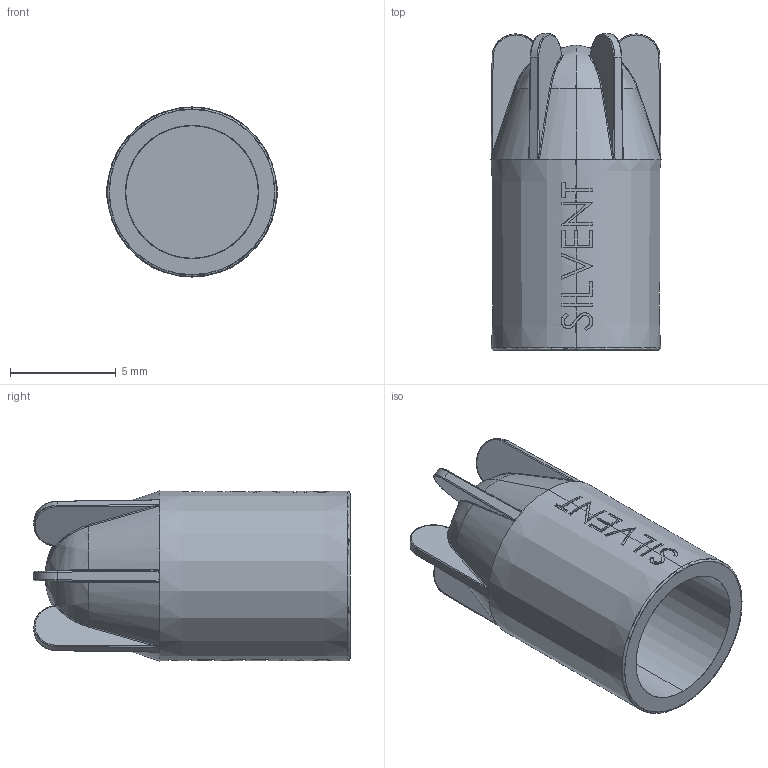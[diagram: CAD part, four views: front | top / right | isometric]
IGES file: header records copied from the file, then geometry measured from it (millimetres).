
Start section: SolidWorks IGES FILE using analytic representation for surfaces
Global section: file name: G:\Silvent\Ritningar\Övrigt\IGES\Silvent 1001.IGS; native system: SolidWorks 2003 by SolidWorks Corporation; preprocessor: Version 5.3; author: Ulf; date: 030923.134439; units: millimetre
Bounding box: 8.03 x 14.93 x 8.03 mm (x, y, z)
Surface area: 652.8 mm2 (no closed solid volume)
Topology: 0 solids, 0 shells, 317 faces, 2587 edges, 2575 vertices
Faces by surface type: bspline 275, revolution 42
